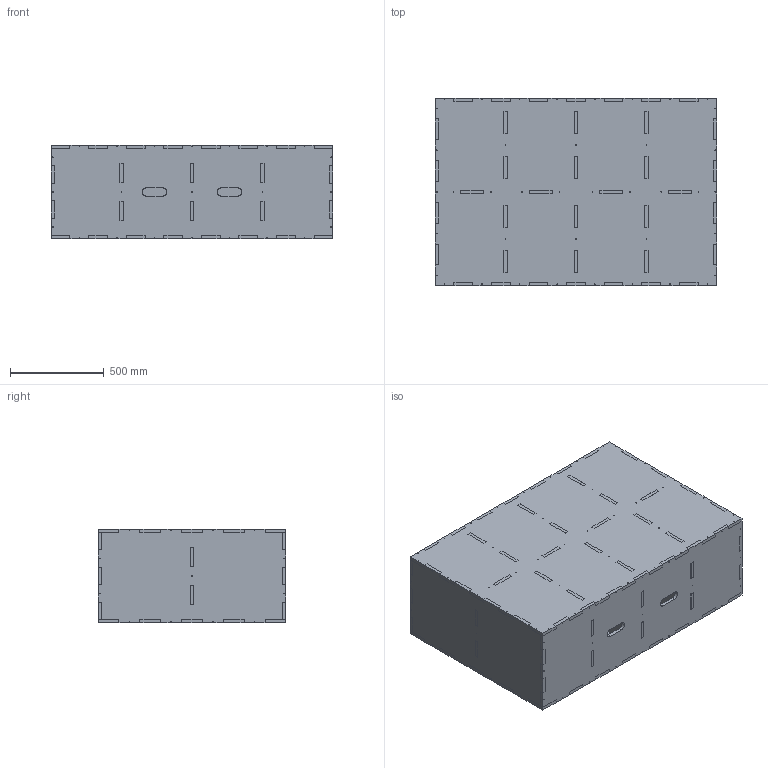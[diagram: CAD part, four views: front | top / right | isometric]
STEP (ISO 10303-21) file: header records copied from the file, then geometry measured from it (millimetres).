
FILE_DESCRIPTION(('Open CASCADE Model'),'2;1');
FILE_NAME('Open CASCADE Shape Model','2026-09-28T10:14:34',('Author'),( 'Open CASCADE'),'Open CASCADE STEP processor 7.9','Open CASCADE 7.9' ,'Unknown');
FILE_SCHEMA(('AUTOMOTIVE_DESIGN { 1 0 10303 214 1 1 1 1 }'));
Length unit declared in the file: millimetre
Products named in the file (11): box_500x1000x1500_ply; box_500x1000x1500_ply/bottom; box_500x1000x1500_ply/top; box_500x1000x1500_ply/front; box_500x1000x1500_ply/back; box_500x1000x1500_ply/end_left; box_500x1000x1500_ply/end_right; box_500x1000x1500_ply/rib_y_0; box_500x1000x1500_ply/rib_y_1; box_500x1000x1500_ply/rib_y_2; box_500x1000x1500_ply/rib_x_0
Assembly tree (10 placements, depth 2):
  box_500x1000x1500_ply
    box_500x1000x1500_ply/bottom
    box_500x1000x1500_ply/top
    box_500x1000x1500_ply/front
    box_500x1000x1500_ply/back
    box_500x1000x1500_ply/end_left
    box_500x1000x1500_ply/end_right
    box_500x1000x1500_ply/rib_y_0
    box_500x1000x1500_ply/rib_y_1
    box_500x1000x1500_ply/rib_y_2
    box_500x1000x1500_ply/rib_x_0
Bounding box: 1500 x 1000 x 500 mm (x, y, z)
Volume: 130657878.5 mm3; surface area: 15585548.5 mm2
Topology: 10 solids, 10 shells, 1052 faces, 3096 edges, 2064 vertices
Faces by surface type: plane 892, cylinder 160
Full cylindrical faces by diameter (mm): 2.5 x152
Entity records: 75038 total; most frequent: CARTESIAN_POINT 13275, DIRECTION 10874, LINE 7788, VECTOR 7788, ORIENTED_EDGE 6192, PCURVE 6192, DEFINITIONAL_REPRESENTATION 6192, EDGE_CURVE 3096
